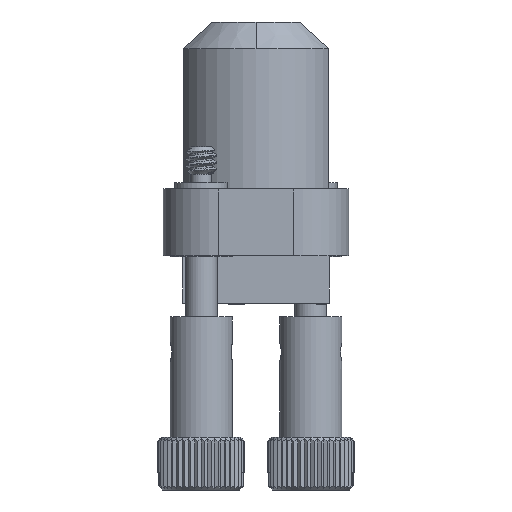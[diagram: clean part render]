
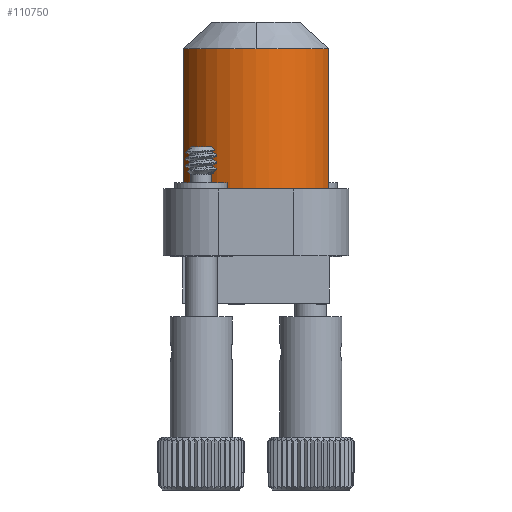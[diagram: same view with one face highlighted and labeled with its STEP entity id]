
A CAD part, left-side view. The second image highlights one B-rep face of the part: STEP entity #110750.
In plain terms, the highlighted cylindrical face has radius 7.02 mm (diameter 14.04 mm), a partial arc.
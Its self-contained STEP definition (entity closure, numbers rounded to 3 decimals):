
#3206 = EDGE_CURVE ( 'NONE', #13087, #19691, #112604, .T. ) ;
#4766 = EDGE_LOOP ( 'NONE', ( #98858, #66333, #15178, #77222, #28908 ) ) ;
#7114 = CIRCLE ( 'NONE', #74810, 7.02 ) ;
#8928 = EDGE_CURVE ( 'NONE', #88937, #47723, #28194, .T. ) ;
#9819 = DIRECTION ( 'NONE',  ( 0., 0., 1. ) ) ;
#13087 = VERTEX_POINT ( 'NONE', #21688 ) ;
#14562 = EDGE_CURVE ( 'NONE', #47723, #19691, #76403, .T. ) ;
#15178 = ORIENTED_EDGE ( 'NONE', *, *, #14562, .T. ) ;
#18684 = AXIS2_PLACEMENT_3D ( 'NONE', #64697, #85295, #112724 ) ;
#19691 = VERTEX_POINT ( 'NONE', #54131 ) ;
#21688 = CARTESIAN_POINT ( 'NONE',  ( -22.88, 6.575, -12.69 ) ) ;
#23220 = DIRECTION ( 'NONE',  ( -0.35, -0.937, 0. ) ) ;
#27221 = DIRECTION ( 'NONE',  ( 0., 0., 1. ) ) ;
#28194 = CIRCLE ( 'NONE', #97869, 7.02 ) ;
#28806 = VERTEX_POINT ( 'NONE', #30018 ) ;
#28908 = ORIENTED_EDGE ( 'NONE', *, *, #114511, .T. ) ;
#30018 = CARTESIAN_POINT ( 'NONE',  ( -22.88, -6.575, -12.69 ) ) ;
#32562 = DIRECTION ( 'NONE',  ( 0., 0., -1. ) ) ;
#37156 = CARTESIAN_POINT ( 'NONE',  ( -22.88, 6.575, -18.71 ) ) ;
#37874 = CARTESIAN_POINT ( 'NONE',  ( -20.42, 0., -18.71 ) ) ;
#38500 = CYLINDRICAL_SURFACE ( 'NONE', #44835, 7.02 ) ;
#44835 = AXIS2_PLACEMENT_3D ( 'NONE', #37874, #9819, #113324 ) ;
#47185 = DIRECTION ( 'NONE',  ( 0., 0., 1. ) ) ;
#47723 = VERTEX_POINT ( 'NONE', #83807 ) ;
#54131 = CARTESIAN_POINT ( 'NONE',  ( -22.88, 6.575, 0. ) ) ;
#61521 = CARTESIAN_POINT ( 'NONE',  ( -22.88, -6.575, 0. ) ) ;
#62959 = DIRECTION ( 'NONE',  ( 0., 0., 1. ) ) ;
#64697 = CARTESIAN_POINT ( 'NONE',  ( -20.42, 0., 0. ) ) ;
#66333 = ORIENTED_EDGE ( 'NONE', *, *, #8928, .T. ) ;
#72303 = CARTESIAN_POINT ( 'NONE',  ( -22.88, -6.575, -18.71 ) ) ;
#72922 = LINE ( 'NONE', #72303, #119350 ) ;
#74810 = AXIS2_PLACEMENT_3D ( 'NONE', #85842, #47185, #96404 ) ;
#76403 = CIRCLE ( 'NONE', #18684, 7.02 ) ;
#77222 = ORIENTED_EDGE ( 'NONE', *, *, #3206, .F. ) ;
#83807 = CARTESIAN_POINT ( 'NONE',  ( -27.44, 0., 0. ) ) ;
#85295 = DIRECTION ( 'NONE',  ( 0., 0., -1. ) ) ;
#85842 = CARTESIAN_POINT ( 'NONE',  ( -20.42, 0., -12.69 ) ) ;
#88937 = VERTEX_POINT ( 'NONE', #61521 ) ;
#91969 = EDGE_CURVE ( 'NONE', #28806, #88937, #72922, .T. ) ;
#94006 = FACE_OUTER_BOUND ( 'NONE', #4766, .T. ) ;
#96404 = DIRECTION ( 'NONE',  ( -1., 0., 0. ) ) ;
#97869 = AXIS2_PLACEMENT_3D ( 'NONE', #117948, #32562, #23220 ) ;
#98858 = ORIENTED_EDGE ( 'NONE', *, *, #91969, .T. ) ;
#105790 = VECTOR ( 'NONE', #27221, 1000. ) ;
#110750 = ADVANCED_FACE ( 'NONE', ( #94006 ), #38500, .T. ) ;
#112604 = LINE ( 'NONE', #37156, #105790 ) ;
#112724 = DIRECTION ( 'NONE',  ( -0.35, -0.937, 0. ) ) ;
#113324 = DIRECTION ( 'NONE',  ( 1., 0., 0. ) ) ;
#114511 = EDGE_CURVE ( 'NONE', #13087, #28806, #7114, .T. ) ;
#117948 = CARTESIAN_POINT ( 'NONE',  ( -20.42, 0., 0. ) ) ;
#119350 = VECTOR ( 'NONE', #62959, 1000. ) ;
